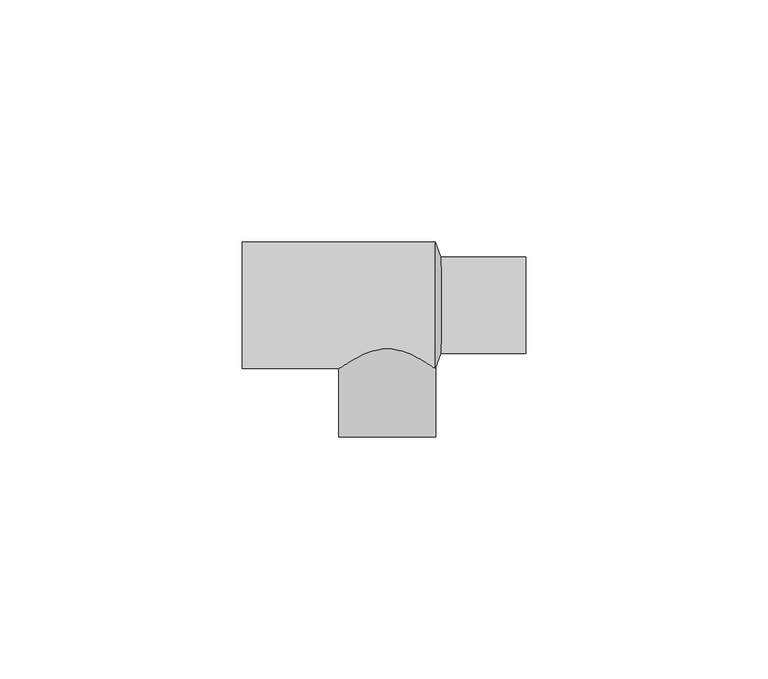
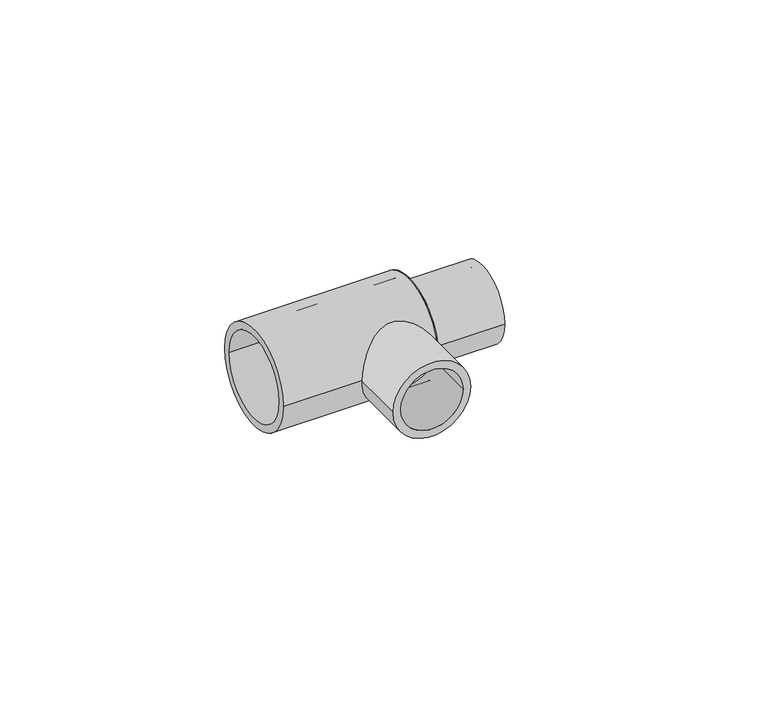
"""IFC4 building model written with IfcOpenShell, lengths in millimetres: pipe fitting geometry, Te Reducida _Lubrizol_CPVC-FlowGuard_MX 19mm x 13mm x13mm : Te Reducida _Lubrizol_CPVC-FlowGuard_MX 19mm x 13mm x13mm."""

from ifc_helpers import new_model, si_unit, point, frame, frame_2d, origin, origin_2d, place, context, project, spatial, polyline, circle_curve, trimmed, segment, composite_curve, outline, extrude, source, transform, mapped, element, save
from ifc_brep_helpers import plane_surface, revolved_surface, advanced_brep


def pipe_fitting_47772a7b(model_context):
    return source(origin(), model_context, "Body", "SolidModel", [
        advanced_brep(
        [(41.7952277, 8.0, 0.0), (41.7952277, -8.0, 0.0), (39.8929221, 13.1, 0.0), (39.8929221, -13.1, 0.0)],
        [
            (0, 1, circle_curve(frame((41.7952277, 0.0, 0.0), z_axis=(1.0, 0.0, 0.0), x_axis=(0.0, 1.0, 0.0)), 8.0)),
            (1, 0, circle_curve(frame((41.7952277, 0.0, 0.0), z_axis=(1.0, 0.0, 0.0), x_axis=(0.0, -1.0, 0.0)), 8.0)),
            (2, 3, circle_curve(frame((39.8929221, 0.0, 0.0), z_axis=(-1.0, 0.0, 0.0), x_axis=(0.0, -1.0, 0.0)), 13.1)),
            (3, 2, circle_curve(frame((39.8929221, 0.0, 0.0), z_axis=(-1.0, 0.0, 0.0), x_axis=(0.0, 1.0, 0.0)), 13.1)),
            (3, 1),
            (0, 2),
        ],
        [
            plane_surface(frame((41.7952277, 0.0, 0.0), z_axis=(1.0, 0.0, 0.0), x_axis=(0.0, 0.0, 1.0))),
            plane_surface(frame((39.8929221, 0.0, 0.0), z_axis=(-1.0, 0.0, 0.0), x_axis=(0.0, 0.0, 1.0))),
            revolved_surface(polyline([(41.7952277, 7.999999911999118, 0.0), (39.8929221, 13.1, 0.0)]), (44.7792364, 0.0, 0.0), (-1.0, 0.0, 0.0)),
            revolved_surface(polyline([(41.7952277, -7.999999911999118, 0.0), (39.8929221, -13.1, 0.0)]), (44.7792364, 0.0, 0.0), (-1.0, 0.0, 0.0)),
        ],
        [
            (0, [[1, 2]]),
            (1, [[3, 4]]),
            (2, [[-4, 5, -1, 6]]),
            (3, [[-3, -6, -2, -5]]),
        ],
    ),
        extrude(outline(composite_curve([segment(trimmed(circle_curve(origin_2d(), 10.0), [point((10.0, 0.0))], [point((-10.0, 0.0))], False, "CARTESIAN"), True, "CONTINUOUS"), segment(trimmed(circle_curve(origin_2d(), 10.0), [point((-10.0, 0.0))], [point((10.0, 0.0))], False, "CARTESIAN"), True, "CONTINUOUS")], self_intersect=False), holes=[composite_curve([segment(trimmed(circle_curve(origin_2d(), 8.0), [point((8.0, 0.0))], [point((-8.0, 0.0))], True, "CARTESIAN"), True, "CONTINUOUS"), segment(trimmed(circle_curve(origin_2d(), 8.0), [point((-8.0, 0.0))], [point((8.0, 0.0))], True, "CARTESIAN"), True, "CONTINUOUS")], self_intersect=False)]), frame((39.8929221, 0.0, 0.0), z_axis=(1.0, 0.0, 0.0), x_axis=(0.0, 1.0, 0.0)), (0.0, 0.0, 1.0), 18.7724456),
        extrude(outline(composite_curve([segment(trimmed(circle_curve(origin_2d(), 13.1), [point((13.1, 0.0))], [point((-13.1, 0.0))], False, "CARTESIAN"), True, "CONTINUOUS"), segment(trimmed(circle_curve(origin_2d(), 13.1), [point((-13.1, 0.0))], [point((13.1, 0.0))], False, "CARTESIAN"), True, "CONTINUOUS")], self_intersect=False), holes=[composite_curve([segment(trimmed(circle_curve(origin_2d(), 11.1), [point((11.1, 0.0))], [point((-11.1, 0.0))], True, "CARTESIAN"), True, "CONTINUOUS"), segment(trimmed(circle_curve(origin_2d(), 11.1), [point((-11.1, 0.0))], [point((11.1, 0.0))], True, "CARTESIAN"), True, "CONTINUOUS")], self_intersect=False)]), frame((0.0, 0.0, 0.0), z_axis=(1.0, 0.0, 0.0), x_axis=(0.0, 1.0, 0.0)), (0.0, 0.0, 1.0), 39.8929221),
        extrude(outline(composite_curve([segment(trimmed(circle_curve(frame_2d((0.0, 30.0)), 10.0), [point((0.0, 20.0))], [point((0.0, 40.0))], False, "CARTESIAN"), True, "CONTINUOUS"), segment(trimmed(circle_curve(frame_2d((0.0, 30.0)), 10.0), [point((0.0, 40.0))], [point((0.0, 20.0))], False, "CARTESIAN"), True, "CONTINUOUS")], self_intersect=False), holes=[composite_curve([segment(trimmed(circle_curve(frame_2d((0.0, 30.0)), 8.0), [point((0.0, 22.0))], [point((0.0, 38.0))], True, "CARTESIAN"), True, "CONTINUOUS"), segment(trimmed(circle_curve(frame_2d((0.0, 30.0)), 8.0), [point((0.0, 38.0))], [point((0.0, 22.0))], True, "CARTESIAN"), True, "CONTINUOUS")], self_intersect=False)]), frame((0.0, -27.2717168, 0.0), z_axis=(0.0, 1.0, 0.0), x_axis=(0.0, 0.0, 1.0)), (0.0, 0.0, 1.0), 20.6566797),
    ])


if __name__ == "__main__":
    model = new_model("IFC4")
    model_context = context("Model", 3, world=origin())
    ifc_project = project(units=[si_unit("LENGTHUNIT", "METRE", prefix="MILLI")], contexts=[model_context])
    site = spatial("IfcSite", under=ifc_project)
    building = spatial("IfcBuilding", under=site)
    placement = place(None, origin())
    pipe_fitting_shape = pipe_fitting_47772a7b(model_context)
    element("IfcPipeFitting", 1, ObjectType="Te Reducida _Lubrizol_CPVC-FlowGuard_MX 19mm x 13mm x13mm : Te Reducida _Lubrizol_CPVC-FlowGuard_MX 19mm x 13mm x13mm", at=placement, inside=building, context=model_context, shape_type="MappedRepresentation", body=[
        mapped(pipe_fitting_shape, transform((0.0, 0.0, 0.0), x_axis=(1.0, 0.0, 0.0), y_axis=(0.0, 1.0, 0.0), z_axis=(0.0, 0.0, 1.0))),
    ])
    save(model, "model.ifc")
